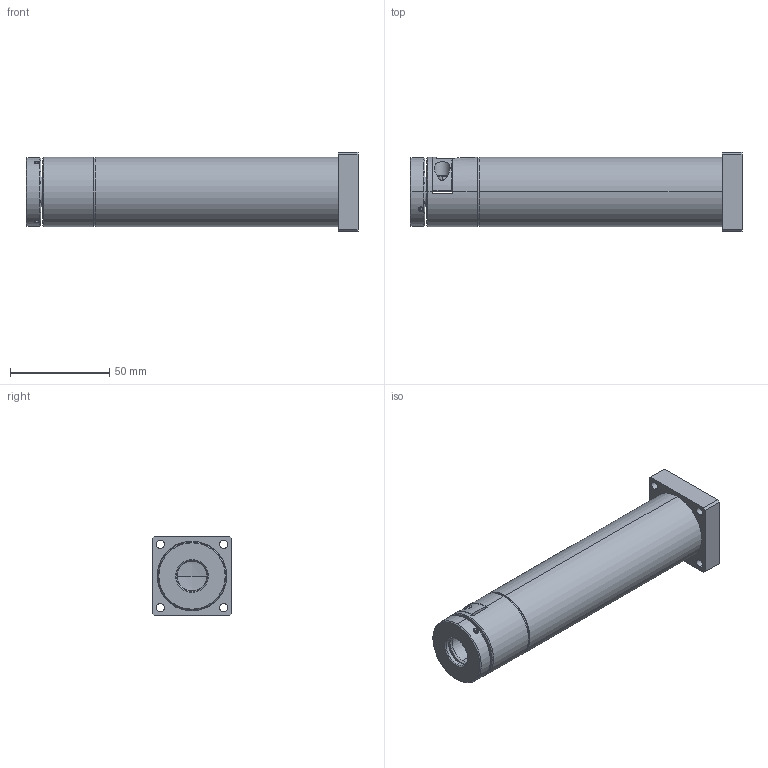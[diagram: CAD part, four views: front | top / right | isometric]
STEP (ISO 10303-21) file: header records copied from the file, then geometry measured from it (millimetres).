
FILE_DESCRIPTION (( 'STEP AP214' ), '1' );
FILE_NAME ('PT-P00555.STEP', '2018-09-19T09:12:56', ( '' ), ( '' ), 'SwSTEP 2.0', 'SolidWorks 2014', '' );
FILE_SCHEMA (( 'AUTOMOTIVE_DESIGN' ));
Length unit declared in the file: millimetre
Products named in the file (1): PT-P00555
Bounding box: 167.5 x 39.9 x 39.9 mm (x, y, z)
Surface area: 29478 mm2 (no closed solid volume)
Topology: 0 solids, 15 shells, 192 faces, 593 edges, 414 vertices
Faces by surface type: plane 84, cylinder 70, cone 27, torus 6, bspline 3, sphere 2
Entity records: 9248 total; most frequent: CARTESIAN_POINT 1888, DIRECTION 1106, ORIENTED_EDGE 986, EDGE_CURVE 591, AXIS2_PLACEMENT_3D 421, VERTEX_POINT 414, LINE 264, VECTOR 264
